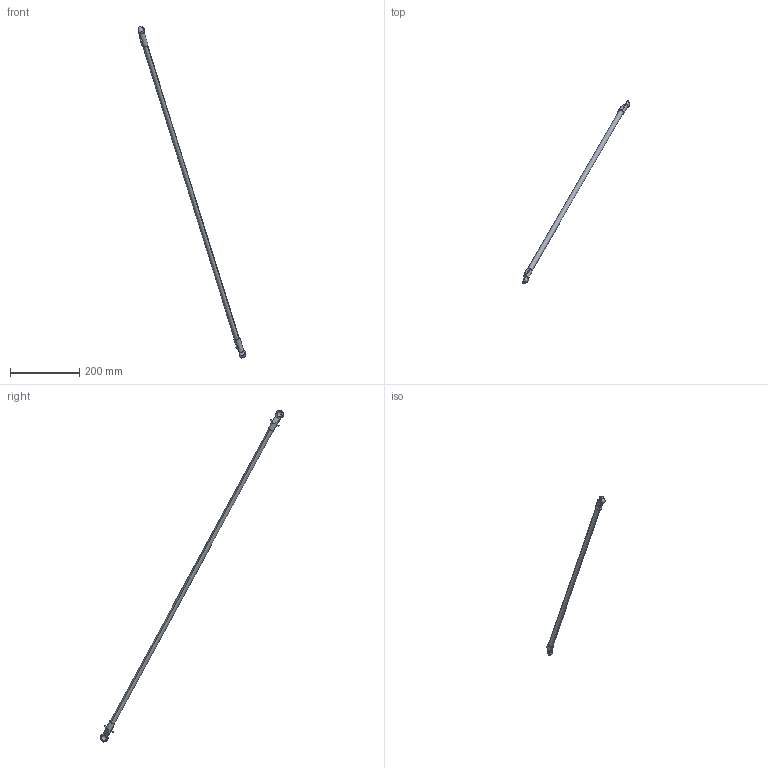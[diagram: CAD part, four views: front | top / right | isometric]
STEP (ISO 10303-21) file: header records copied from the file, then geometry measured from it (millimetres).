
FILE_DESCRIPTION (( 'STEP AP214' ), '1' );
FILE_NAME ('IRB360_X-1600-STD-4D_rev05_LA2_1_CAD.STEP', '2025-10-31T12:18:14', ( '' ), ( '' ), 'SwSTEP 2.0', 'SolidWorks 2024', '' );
FILE_SCHEMA (( 'AUTOMOTIVE_DESIGN' ));
Length unit declared in the file: millimetre
Products named in the file (1): IRB360_X-1600-STD-4D_rev05_LA2_1_CAD
Bounding box: 311.36 x 530.7 x 961.41 mm (x, y, z)
Volume: 177298.5 mm3; surface area: 51954.9 mm2
Topology: 1 solids, 1 shells, 44 faces, 114 edges, 70 vertices
Faces by surface type: cylinder 16, sphere 10, plane 10, cone 8
Entity records: 1735 total; most frequent: CARTESIAN_POINT 697, DIRECTION 220, ORIENTED_EDGE 208, EDGE_CURVE 104, AXIS2_PLACEMENT_3D 93, VERTEX_POINT 66, CIRCLE 48, EDGE_LOOP 48
